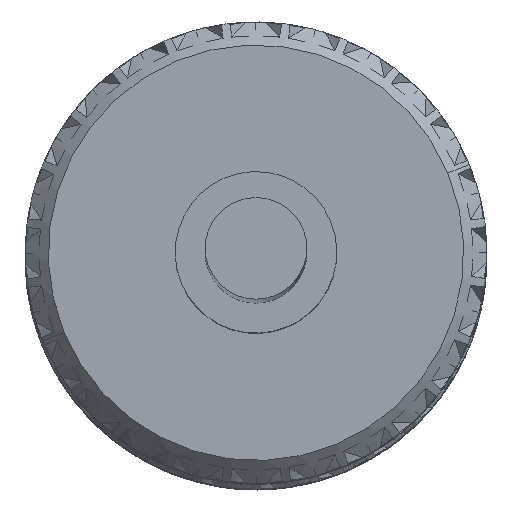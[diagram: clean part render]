
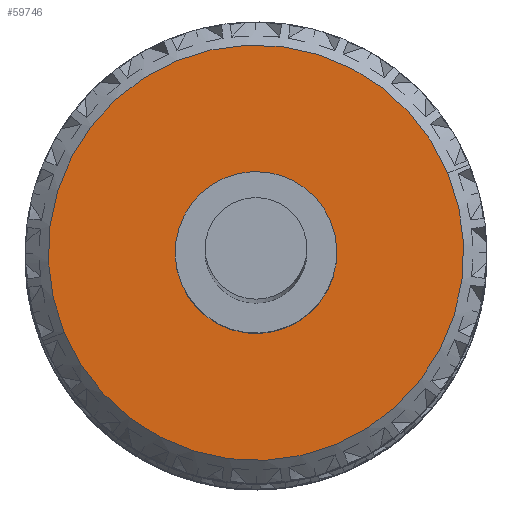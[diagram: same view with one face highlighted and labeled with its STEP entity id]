
A CAD part, top view. The second image highlights one B-rep face of the part: STEP entity #59746.
In plain terms, the highlighted planar face has unit normal (0, 0, 1).
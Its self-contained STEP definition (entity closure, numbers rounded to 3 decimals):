
#1075 = CARTESIAN_POINT ( 'NONE',  ( 0., 0., 80. ) ) ;
#1152 = CIRCLE ( 'NONE', #27585, 4.5 ) ;
#2704 = FACE_BOUND ( 'NONE', #59170, .T. ) ;
#3094 = CIRCLE ( 'NONE', #19540, 1.75 ) ;
#3683 = EDGE_CURVE ( 'NONE', #3846, #43682, #48901, .T. ) ;
#3846 = VERTEX_POINT ( 'NONE', #23078 ) ;
#4757 = CARTESIAN_POINT ( 'NONE',  ( 0., 0., 80. ) ) ;
#6923 = AXIS2_PLACEMENT_3D ( 'NONE', #22412, #21882, #27967 ) ;
#7611 = CARTESIAN_POINT ( 'NONE',  ( 0., 0., 80. ) ) ;
#14528 = CARTESIAN_POINT ( 'NONE',  ( 0., 0., 80. ) ) ;
#16322 = ORIENTED_EDGE ( 'NONE', *, *, #3683, .T. ) ;
#16347 = DIRECTION ( 'NONE',  ( 0., 0., 1. ) ) ;
#19540 = AXIS2_PLACEMENT_3D ( 'NONE', #4757, #16347, #40352 ) ;
#19645 = CARTESIAN_POINT ( 'NONE',  ( -1.617, -0.67, 80. ) ) ;
#20070 = AXIS2_PLACEMENT_3D ( 'NONE', #1075, #48772, #36668 ) ;
#20479 = DIRECTION ( 'NONE',  ( 0.924, 0.383, 0. ) ) ;
#20593 = DIRECTION ( 'NONE',  ( 0., 0., 1. ) ) ;
#20857 = DIRECTION ( 'NONE',  ( 0.924, 0.383, 0. ) ) ;
#21130 = ORIENTED_EDGE ( 'NONE', *, *, #28704, .F. ) ;
#21882 = DIRECTION ( 'NONE',  ( 0., 0., -1. ) ) ;
#22346 = EDGE_CURVE ( 'NONE', #53177, #55207, #3094, .T. ) ;
#22412 = CARTESIAN_POINT ( 'NONE',  ( 0., 0., 80. ) ) ;
#23078 = CARTESIAN_POINT ( 'NONE',  ( -4.157, -1.724, 80. ) ) ;
#27585 = AXIS2_PLACEMENT_3D ( 'NONE', #14528, #20593, #20857 ) ;
#27967 = DIRECTION ( 'NONE',  ( 0.924, 0.383, 0. ) ) ;
#28704 = EDGE_CURVE ( 'NONE', #55207, #53177, #63891, .T. ) ;
#28845 = AXIS2_PLACEMENT_3D ( 'NONE', #7611, #49743, #20479 ) ;
#29231 = EDGE_LOOP ( 'NONE', ( #63121, #16322 ) ) ;
#36668 = DIRECTION ( 'NONE',  ( -0.924, -0.383, 0. ) ) ;
#39811 = PLANE ( 'NONE',  #6923 ) ;
#40352 = DIRECTION ( 'NONE',  ( -0.924, -0.383, 0. ) ) ;
#43682 = VERTEX_POINT ( 'NONE', #52304 ) ;
#46143 = EDGE_CURVE ( 'NONE', #43682, #3846, #1152, .T. ) ;
#48481 = ORIENTED_EDGE ( 'NONE', *, *, #22346, .F. ) ;
#48772 = DIRECTION ( 'NONE',  ( 0., 0., 1. ) ) ;
#48901 = CIRCLE ( 'NONE', #28845, 4.5 ) ;
#49743 = DIRECTION ( 'NONE',  ( 0., 0., 1. ) ) ;
#50146 = CARTESIAN_POINT ( 'NONE',  ( 1.617, 0.67, 80. ) ) ;
#52304 = CARTESIAN_POINT ( 'NONE',  ( 4.157, 1.724, 80. ) ) ;
#53177 = VERTEX_POINT ( 'NONE', #50146 ) ;
#55207 = VERTEX_POINT ( 'NONE', #19645 ) ;
#59170 = EDGE_LOOP ( 'NONE', ( #21130, #48481 ) ) ;
#59746 = ADVANCED_FACE ( 'NONE', ( #69715, #2704 ), #39811, .F. ) ;
#63121 = ORIENTED_EDGE ( 'NONE', *, *, #46143, .T. ) ;
#63891 = CIRCLE ( 'NONE', #20070, 1.75 ) ;
#69715 = FACE_OUTER_BOUND ( 'NONE', #29231, .T. ) ;
